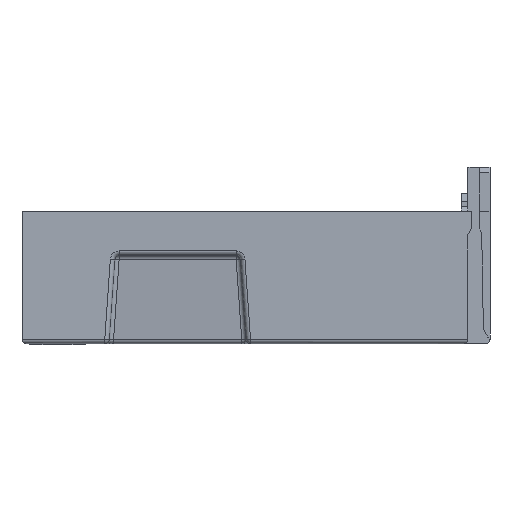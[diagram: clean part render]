
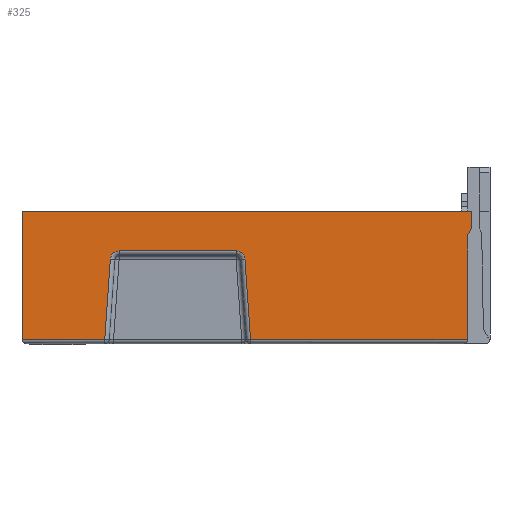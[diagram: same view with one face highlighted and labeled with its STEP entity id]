
A CAD part, front view. The second image highlights one B-rep face of the part: STEP entity #325.
In plain terms, the highlighted planar face has unit normal (0, -1, 0).
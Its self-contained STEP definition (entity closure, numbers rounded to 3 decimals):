
#325=ADVANCED_FACE('',(#765),#567,.T.);
#567=PLANE('',#5268);
#765=FACE_OUTER_BOUND('',#2119,.T.);
#1240=LINE('',#7803,#1744);
#1263=LINE('',#7856,#1767);
#1264=LINE('',#7859,#1768);
#1265=LINE('',#7860,#1769);
#1266=LINE('',#7862,#1770);
#1267=LINE('',#7864,#1771);
#1268=LINE('',#7866,#1772);
#1269=LINE('',#7868,#1773);
#1270=LINE('',#7870,#1774);
#1271=LINE('',#7874,#1775);
#1744=VECTOR('',#6193,1.);
#1767=VECTOR('',#6230,1.);
#1768=VECTOR('',#6231,1.);
#1769=VECTOR('',#6232,1.);
#1770=VECTOR('',#6233,1.);
#1771=VECTOR('',#6234,1.);
#1772=VECTOR('',#6235,1.);
#1773=VECTOR('',#6236,1.);
#1774=VECTOR('',#6237,1.);
#1775=VECTOR('',#6240,1.);
#2119=EDGE_LOOP('',(#2959,#2960,#2961,#2962,#2963,#2964,#2965,#2966,#2967,
#2968,#2969,#2970));
#2959=ORIENTED_EDGE('',*,*,#4612,.T.);
#2960=ORIENTED_EDGE('',*,*,#4613,.T.);
#2961=ORIENTED_EDGE('',*,*,#4585,.T.);
#2962=ORIENTED_EDGE('',*,*,#4614,.T.);
#2963=ORIENTED_EDGE('',*,*,#4615,.T.);
#2964=ORIENTED_EDGE('',*,*,#4616,.F.);
#2965=ORIENTED_EDGE('',*,*,#4617,.F.);
#2966=ORIENTED_EDGE('',*,*,#4618,.T.);
#2967=ORIENTED_EDGE('',*,*,#4619,.T.);
#2968=ORIENTED_EDGE('',*,*,#4620,.T.);
#2969=ORIENTED_EDGE('',*,*,#4621,.T.);
#2970=ORIENTED_EDGE('',*,*,#4622,.T.);
#4024=VERTEX_POINT('',#7804);
#4025=VERTEX_POINT('',#7805);
#4047=VERTEX_POINT('',#7857);
#4048=VERTEX_POINT('',#7858);
#4049=VERTEX_POINT('',#7861);
#4050=VERTEX_POINT('',#7863);
#4051=VERTEX_POINT('',#7865);
#4052=VERTEX_POINT('',#7867);
#4053=VERTEX_POINT('',#7869);
#4054=VERTEX_POINT('',#7871);
#4055=VERTEX_POINT('',#7873);
#4056=VERTEX_POINT('',#7875);
#4585=EDGE_CURVE('',#4024,#4025,#1240,.T.);
#4612=EDGE_CURVE('',#4047,#4048,#1263,.T.);
#4613=EDGE_CURVE('',#4048,#4024,#1264,.T.);
#4614=EDGE_CURVE('',#4025,#4049,#1265,.T.);
#4615=EDGE_CURVE('',#4049,#4050,#1266,.T.);
#4616=EDGE_CURVE('',#4051,#4050,#1267,.T.);
#4617=EDGE_CURVE('',#4052,#4051,#1268,.T.);
#4618=EDGE_CURVE('',#4052,#4053,#1269,.T.);
#4619=EDGE_CURVE('',#4053,#4054,#1270,.T.);
#4620=EDGE_CURVE('',#4054,#4055,#4991,.T.);
#4621=EDGE_CURVE('',#4055,#4056,#1271,.T.);
#4622=EDGE_CURVE('',#4056,#4047,#4992,.T.);
#4991=CIRCLE('',#5266,2.);
#4992=CIRCLE('',#5267,2.);
#5266=AXIS2_PLACEMENT_3D('',#7872,#6238,#6239);
#5267=AXIS2_PLACEMENT_3D('',#7876,#6241,#6242);
#5268=AXIS2_PLACEMENT_3D('',#7877,#6243,#6244);
#6193=DIRECTION('',(0.,0.,1.));
#6230=DIRECTION('',(0.07,0.,-0.998));
#6231=DIRECTION('',(1.,0.,0.));
#6232=DIRECTION('',(0.5,0.,0.866));
#6233=DIRECTION('',(0.,0.,1.));
#6234=DIRECTION('',(1.,0.,0.));
#6235=DIRECTION('',(0.,0.,1.));
#6236=DIRECTION('',(1.,0.,0.));
#6237=DIRECTION('',(0.07,0.,0.998));
#6238=DIRECTION('',(0.,1.,0.));
#6239=DIRECTION('',(0.,0.,-1.));
#6240=DIRECTION('',(1.,0.,0.));
#6241=DIRECTION('',(0.,1.,0.));
#6242=DIRECTION('',(0.,0.,-1.));
#6243=DIRECTION('',(0.,-1.,0.));
#6244=DIRECTION('',(0.,0.,-1.));
#7803=CARTESIAN_POINT('',(101.,0.,0.));
#7804=CARTESIAN_POINT('',(101.,0.,1.));
#7805=CARTESIAN_POINT('',(101.,0.,24.614));
#7856=CARTESIAN_POINT('',(51.827,0.,0.093));
#7857=CARTESIAN_POINT('',(50.495,0.,19.14));
#7858=CARTESIAN_POINT('',(51.764,0.,1.));
#7859=CARTESIAN_POINT('',(50.5,0.,1.));
#7860=CARTESIAN_POINT('',(77.717,0.,-15.714));
#7861=CARTESIAN_POINT('',(101.8,0.,26.));
#7862=CARTESIAN_POINT('',(101.8,0.,26.));
#7863=CARTESIAN_POINT('',(101.8,0.,30.));
#7864=CARTESIAN_POINT('',(0.,0.,30.));
#7865=CARTESIAN_POINT('',(0.,0.,30.));
#7866=CARTESIAN_POINT('',(0.,0.,0.));
#7867=CARTESIAN_POINT('',(0.,0.,1.));
#7868=CARTESIAN_POINT('',(50.5,0.,1.));
#7869=CARTESIAN_POINT('',(18.736,0.,1.));
#7870=CARTESIAN_POINT('',(18.821,0.,2.215));
#7871=CARTESIAN_POINT('',(20.005,0.,19.14));
#7872=CARTESIAN_POINT('',(22.,0.,19.));
#7873=CARTESIAN_POINT('',(22.,0.,21.));
#7874=CARTESIAN_POINT('',(48.5,0.,21.));
#7875=CARTESIAN_POINT('',(48.5,0.,21.));
#7876=CARTESIAN_POINT('',(48.5,0.,19.));
#7877=CARTESIAN_POINT('',(50.5,0.,0.));
